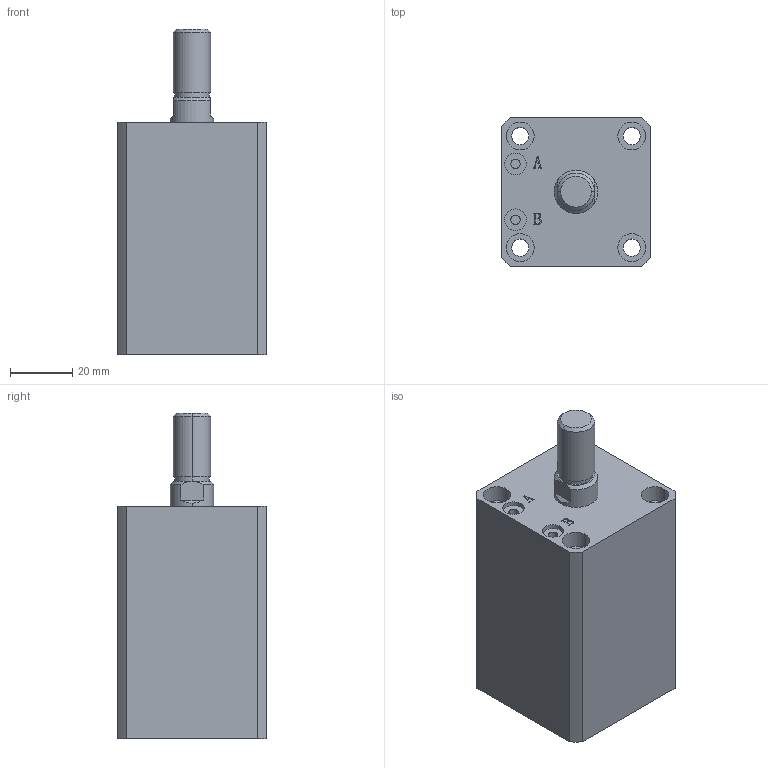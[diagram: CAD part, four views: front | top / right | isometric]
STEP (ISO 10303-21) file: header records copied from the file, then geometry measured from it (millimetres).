
FILE_DESCRIPTION (( 'STEP AP203' ), '1' );
FILE_NAME ('HTB-SDMA25-30W.STEP', '2019-10-07T10:52:38', ( '微软用户' ), ( '微软中国' ), 'SwSTEP 2.0', 'SolidWorks 2012', '' );
FILE_SCHEMA (( 'CONFIG_CONTROL_DESIGN' ));
Length unit declared in the file: millimetre
Products named in the file (3): HTB-SDMA25-30W; HTB-SDMA25-30W活塞杆; HTB-SDMA25-30掛极
Assembly tree (2 placements, depth 2):
  HTB-SDMA25-30W
    HTB-SDMA25-30掛极
    HTB-SDMA25-30W活塞杆
Bounding box: 48 x 48 x 105 mm (x, y, z)
Volume: 155741 mm3; surface area: 35102.5 mm2
Topology: 2 solids, 2 shells, 141 faces, 335 edges, 220 vertices
Faces by surface type: plane 67, cylinder 48, bspline 16, torus 6, cone 4
Entity records: 5178 total; most frequent: CARTESIAN_POINT 1609, ORIENTED_EDGE 670, DIRECTION 667, EDGE_CURVE 335, AXIS2_PLACEMENT_3D 242, VERTEX_POINT 220, LINE 183, VECTOR 183
